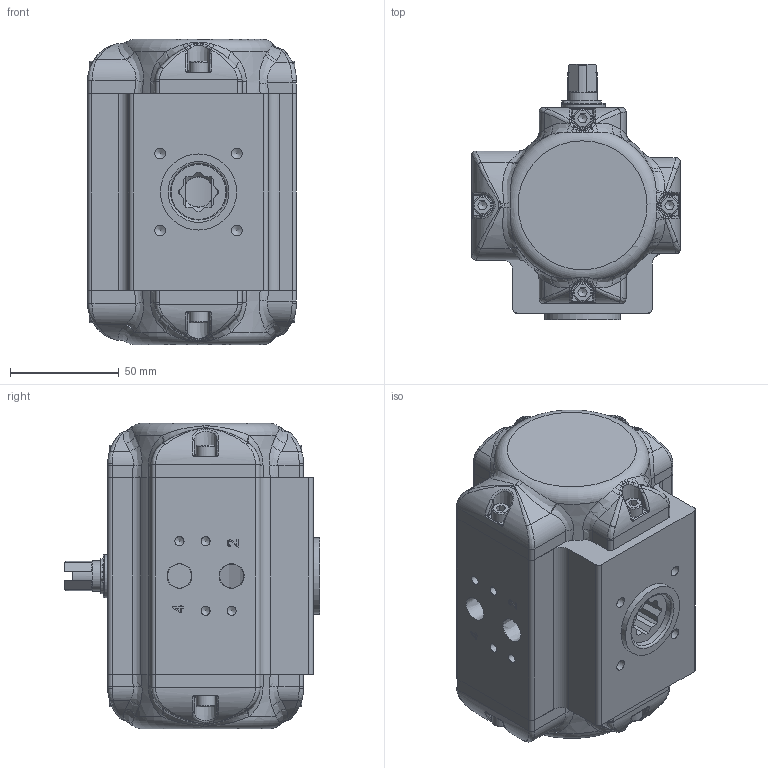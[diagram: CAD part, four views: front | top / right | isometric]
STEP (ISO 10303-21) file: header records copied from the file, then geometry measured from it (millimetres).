
FILE_DESCRIPTION((''),'2;1');
FILE_NAME('C:\Dokumente und Einstellungen\ko-p\Desktop\ENG-048781_Konturvereinfachung_1.stp','2010-11-25T12:34:16',('war'),(''),'Autodesk Inventor 2010','Autodesk Inventor 2010','');
FILE_SCHEMA(('AUTOMOTIVE_DESIGN { 1 0 10303 214 1 1 1 1 }'));
Length unit declared in the file: millimetre
Products named in the file (1): ENG-048781_Konturvereinfachung_1
Bounding box: 96 x 117.5 x 140.3 mm (x, y, z)
Surface area: 82928.9 mm2 (no closed solid volume)
Topology: 0 solids, 24 shells, 600 faces, 1778 edges, 1158 vertices
Faces by surface type: bspline 271, plane 154, cylinder 125, cone 27, torus 23
Full cylindrical faces by diameter (mm): 1.7 x2, 8.5 x8, 13.5 x1, 13.8 x1, 20 x2, 35 x1, 63 x1
Entity records: 26330 total; most frequent: CARTESIAN_POINT 11909, ORIENTED_EDGE 2911, DIRECTION 2328, EDGE_CURVE 1670, VERTEX_POINT 1116, AXIS2_PLACEMENT_3D 930, EDGE_LOOP 714, FACE_OUTER_BOUND 600
